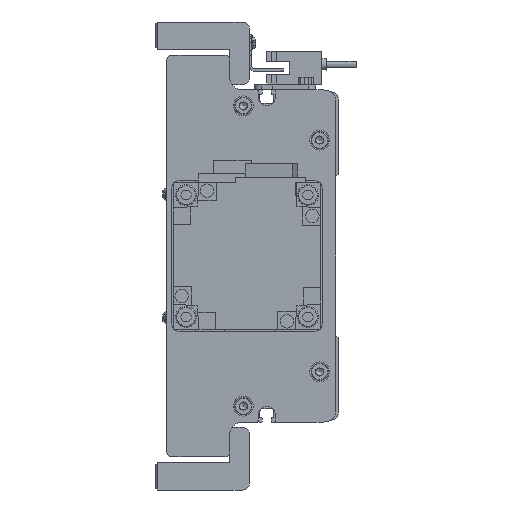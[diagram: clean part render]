
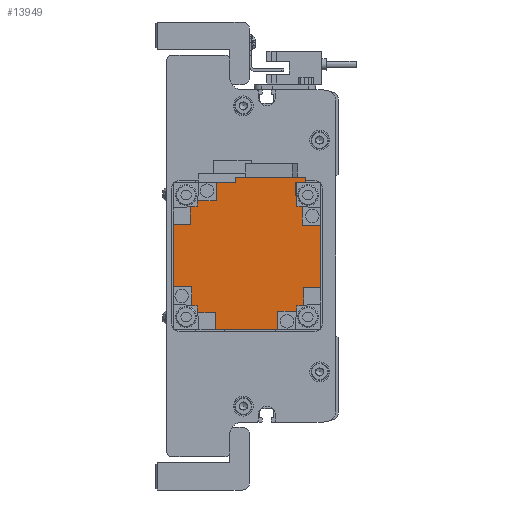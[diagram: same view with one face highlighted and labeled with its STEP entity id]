
A CAD part, left-side view. The second image highlights one B-rep face of the part: STEP entity #13949.
In plain terms, the highlighted planar face has unit normal (-1, 0, 0) as drawn and (0, 1, 0) by its records, which use the part's own axes.
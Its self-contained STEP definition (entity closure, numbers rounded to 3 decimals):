
#1388=ORIENTED_EDGE('',*,*,#5170,.T.);
#1389=ORIENTED_EDGE('',*,*,#5171,.T.);
#1390=ORIENTED_EDGE('',*,*,#5172,.T.);
#1391=ORIENTED_EDGE('',*,*,#5173,.T.);
#1392=ORIENTED_EDGE('',*,*,#5174,.T.);
#1393=ORIENTED_EDGE('',*,*,#5175,.F.);
#1394=ORIENTED_EDGE('',*,*,#5176,.F.);
#1395=ORIENTED_EDGE('',*,*,#5177,.T.);
#1396=ORIENTED_EDGE('',*,*,#5178,.T.);
#1397=ORIENTED_EDGE('',*,*,#5179,.T.);
#1398=ORIENTED_EDGE('',*,*,#5180,.T.);
#1399=ORIENTED_EDGE('',*,*,#5181,.T.);
#1400=ORIENTED_EDGE('',*,*,#5182,.F.);
#1401=ORIENTED_EDGE('',*,*,#5183,.F.);
#1402=ORIENTED_EDGE('',*,*,#5184,.T.);
#1403=ORIENTED_EDGE('',*,*,#5185,.T.);
#1404=ORIENTED_EDGE('',*,*,#5186,.T.);
#1405=ORIENTED_EDGE('',*,*,#5187,.T.);
#1406=ORIENTED_EDGE('',*,*,#5188,.T.);
#1407=ORIENTED_EDGE('',*,*,#5189,.F.);
#1408=ORIENTED_EDGE('',*,*,#5190,.F.);
#1409=ORIENTED_EDGE('',*,*,#5191,.T.);
#1410=ORIENTED_EDGE('',*,*,#5192,.F.);
#1411=ORIENTED_EDGE('',*,*,#5151,.F.);
#1412=ORIENTED_EDGE('',*,*,#5193,.T.);
#1413=ORIENTED_EDGE('',*,*,#5168,.T.);
#1414=ORIENTED_EDGE('',*,*,#5194,.T.);
#1415=ORIENTED_EDGE('',*,*,#5195,.T.);
#1416=ORIENTED_EDGE('',*,*,#5196,.F.);
#1417=ORIENTED_EDGE('',*,*,#5197,.F.);
#5151=EDGE_CURVE('',#7074,#7075,#8482,.T.);
#5168=EDGE_CURVE('',#7092,#7091,#8499,.T.);
#5170=EDGE_CURVE('',#7093,#7094,#8501,.T.);
#5171=EDGE_CURVE('',#7094,#7095,#8502,.T.);
#5172=EDGE_CURVE('',#7095,#7096,#8503,.T.);
#5173=EDGE_CURVE('',#7096,#7097,#8504,.T.);
#5174=EDGE_CURVE('',#7097,#7098,#8505,.T.);
#5175=EDGE_CURVE('',#7099,#7098,#8506,.T.);
#5176=EDGE_CURVE('',#7100,#7099,#8507,.T.);
#5177=EDGE_CURVE('',#7100,#7101,#8508,.T.);
#5178=EDGE_CURVE('',#7101,#7102,#8509,.T.);
#5179=EDGE_CURVE('',#7102,#7103,#8510,.T.);
#5180=EDGE_CURVE('',#7103,#7104,#8511,.T.);
#5181=EDGE_CURVE('',#7104,#7105,#8512,.T.);
#5182=EDGE_CURVE('',#7106,#7105,#8513,.T.);
#5183=EDGE_CURVE('',#7107,#7106,#8514,.T.);
#5184=EDGE_CURVE('',#7107,#7108,#8515,.T.);
#5185=EDGE_CURVE('',#7108,#7109,#8516,.T.);
#5186=EDGE_CURVE('',#7109,#7110,#8517,.T.);
#5187=EDGE_CURVE('',#7110,#7111,#8518,.T.);
#5188=EDGE_CURVE('',#7111,#7112,#8519,.T.);
#5189=EDGE_CURVE('',#7113,#7112,#8520,.T.);
#5190=EDGE_CURVE('',#7114,#7113,#8521,.T.);
#5191=EDGE_CURVE('',#7114,#7115,#8522,.T.);
#5192=EDGE_CURVE('',#7075,#7115,#8523,.T.);
#5193=EDGE_CURVE('',#7074,#7092,#8524,.T.);
#5194=EDGE_CURVE('',#7091,#7116,#8525,.T.);
#5195=EDGE_CURVE('',#7116,#7117,#8526,.T.);
#5196=EDGE_CURVE('',#7118,#7117,#8527,.T.);
#5197=EDGE_CURVE('',#7093,#7118,#8528,.T.);
#7074=VERTEX_POINT('',#20803);
#7075=VERTEX_POINT('',#20804);
#7091=VERTEX_POINT('',#20837);
#7092=VERTEX_POINT('',#20839);
#7093=VERTEX_POINT('',#20843);
#7094=VERTEX_POINT('',#20844);
#7095=VERTEX_POINT('',#20846);
#7096=VERTEX_POINT('',#20848);
#7097=VERTEX_POINT('',#20850);
#7098=VERTEX_POINT('',#20852);
#7099=VERTEX_POINT('',#20854);
#7100=VERTEX_POINT('',#20856);
#7101=VERTEX_POINT('',#20858);
#7102=VERTEX_POINT('',#20860);
#7103=VERTEX_POINT('',#20862);
#7104=VERTEX_POINT('',#20864);
#7105=VERTEX_POINT('',#20866);
#7106=VERTEX_POINT('',#20868);
#7107=VERTEX_POINT('',#20870);
#7108=VERTEX_POINT('',#20872);
#7109=VERTEX_POINT('',#20874);
#7110=VERTEX_POINT('',#20876);
#7111=VERTEX_POINT('',#20878);
#7112=VERTEX_POINT('',#20880);
#7113=VERTEX_POINT('',#20882);
#7114=VERTEX_POINT('',#20884);
#7115=VERTEX_POINT('',#20886);
#7116=VERTEX_POINT('',#20890);
#7117=VERTEX_POINT('',#20892);
#7118=VERTEX_POINT('',#20894);
#8482=LINE('',#20802,#9859);
#8499=LINE('',#20838,#9876);
#8501=LINE('',#20842,#9878);
#8502=LINE('',#20845,#9879);
#8503=LINE('',#20847,#9880);
#8504=LINE('',#20849,#9881);
#8505=LINE('',#20851,#9882);
#8506=LINE('',#20853,#9883);
#8507=LINE('',#20855,#9884);
#8508=LINE('',#20857,#9885);
#8509=LINE('',#20859,#9886);
#8510=LINE('',#20861,#9887);
#8511=LINE('',#20863,#9888);
#8512=LINE('',#20865,#9889);
#8513=LINE('',#20867,#9890);
#8514=LINE('',#20869,#9891);
#8515=LINE('',#20871,#9892);
#8516=LINE('',#20873,#9893);
#8517=LINE('',#20875,#9894);
#8518=LINE('',#20877,#9895);
#8519=LINE('',#20879,#9896);
#8520=LINE('',#20881,#9897);
#8521=LINE('',#20883,#9898);
#8522=LINE('',#20885,#9899);
#8523=LINE('',#20887,#9900);
#8524=LINE('',#20888,#9901);
#8525=LINE('',#20889,#9902);
#8526=LINE('',#20891,#9903);
#8527=LINE('',#20893,#9904);
#8528=LINE('',#20895,#9905);
#9859=VECTOR('',#16574,1000.);
#9876=VECTOR('',#16593,1000.);
#9878=VECTOR('',#16597,1000.);
#9879=VECTOR('',#16598,1000.);
#9880=VECTOR('',#16599,1000.);
#9881=VECTOR('',#16600,1000.);
#9882=VECTOR('',#16601,1000.);
#9883=VECTOR('',#16602,1000.);
#9884=VECTOR('',#16603,1000.);
#9885=VECTOR('',#16604,1000.);
#9886=VECTOR('',#16605,1000.);
#9887=VECTOR('',#16606,1000.);
#9888=VECTOR('',#16607,1000.);
#9889=VECTOR('',#16608,1000.);
#9890=VECTOR('',#16609,1000.);
#9891=VECTOR('',#16610,1000.);
#9892=VECTOR('',#16611,1000.);
#9893=VECTOR('',#16612,1000.);
#9894=VECTOR('',#16613,1000.);
#9895=VECTOR('',#16614,1000.);
#9896=VECTOR('',#16615,1000.);
#9897=VECTOR('',#16616,1000.);
#9898=VECTOR('',#16617,1000.);
#9899=VECTOR('',#16618,1000.);
#9900=VECTOR('',#16619,1000.);
#9901=VECTOR('',#16620,1000.);
#9902=VECTOR('',#16621,1000.);
#9903=VECTOR('',#16622,1000.);
#9904=VECTOR('',#16623,1000.);
#9905=VECTOR('',#16624,1000.);
#11180=EDGE_LOOP('',(#1388,#1389,#1390,#1391,#1392,#1393,#1394,#1395,#1396,
#1397,#1398,#1399,#1400,#1401,#1402,#1403,#1404,#1405,#1406,#1407,#1408,
#1409,#1410,#1411,#1412,#1413,#1414,#1415,#1416,#1417));
#12291=FACE_BOUND('',#11180,.T.);
#13393=PLANE('',#14899);
#13949=ADVANCED_FACE('',(#12291),#13393,.T.);
#14899=AXIS2_PLACEMENT_3D('',#20841,#16595,#16596);
#16574=DIRECTION('',(0.,0.,1.));
#16593=DIRECTION('',(0.,0.,-1.));
#16595=DIRECTION('',(0.,1.,0.));
#16596=DIRECTION('',(0.,0.,1.));
#16597=DIRECTION('',(-1.,0.,0.));
#16598=DIRECTION('',(0.,0.,-1.));
#16599=DIRECTION('',(-1.,0.,0.));
#16600=DIRECTION('',(0.,0.,1.));
#16601=DIRECTION('',(-1.,0.,0.));
#16602=DIRECTION('',(0.07,0.,-0.998));
#16603=DIRECTION('',(0.998,0.,-0.07));
#16604=DIRECTION('',(0.,0.,1.));
#16605=DIRECTION('',(-1.,0.,0.));
#16606=DIRECTION('',(0.,0.,1.));
#16607=DIRECTION('',(1.,0.,0.));
#16608=DIRECTION('',(0.,0.,1.));
#16609=DIRECTION('',(-0.998,0.,-0.07));
#16610=DIRECTION('',(-0.07,0.,-0.998));
#16611=DIRECTION('',(1.,0.,0.));
#16612=DIRECTION('',(0.,0.,1.));
#16613=DIRECTION('',(1.,0.,0.));
#16614=DIRECTION('',(0.,0.,-1.));
#16615=DIRECTION('',(1.,0.,0.));
#16616=DIRECTION('',(-0.07,0.,0.998));
#16617=DIRECTION('',(-0.998,0.,0.07));
#16618=DIRECTION('',(0.,0.,1.));
#16619=DIRECTION('',(-1.,0.,0.));
#16620=DIRECTION('',(-1.,0.,0.));
#16621=DIRECTION('',(-1.,0.,0.));
#16622=DIRECTION('',(0.,0.,-1.));
#16623=DIRECTION('',(0.998,0.,0.07));
#16624=DIRECTION('',(0.07,0.,0.998));
#20802=CARTESIAN_POINT('',(32.,130.7,-4.7));
#20803=CARTESIAN_POINT('',(32.,130.7,-4.7));
#20804=CARTESIAN_POINT('',(32.,130.7,23.7));
#20837=CARTESIAN_POINT('',(29.95,130.7,-12.5));
#20838=CARTESIAN_POINT('',(29.95,130.7,29.95));
#20839=CARTESIAN_POINT('',(29.95,130.7,-4.7));
#20841=CARTESIAN_POINT('',(0.,130.7,0.));
#20842=CARTESIAN_POINT('',(0.,130.7,-23.));
#20843=CARTESIAN_POINT('',(20.004,130.7,-23.));
#20844=CARTESIAN_POINT('',(12.8,130.7,-23.));
#20845=CARTESIAN_POINT('',(12.8,130.7,0.));
#20846=CARTESIAN_POINT('',(12.8,130.7,-29.95));
#20847=CARTESIAN_POINT('',(29.95,130.7,-29.95));
#20848=CARTESIAN_POINT('',(-12.5,130.7,-29.95));
#20849=CARTESIAN_POINT('',(-12.5,130.7,0.));
#20850=CARTESIAN_POINT('',(-12.5,130.7,-22.5));
#20851=CARTESIAN_POINT('',(0.,130.7,-22.5));
#20852=CARTESIAN_POINT('',(-20.039,130.7,-22.5));
#20853=CARTESIAN_POINT('',(-21.507,130.7,-1.504));
#20854=CARTESIAN_POINT('',(-20.2,130.7,-20.2));
#20855=CARTESIAN_POINT('',(-1.504,130.7,-21.507));
#20856=CARTESIAN_POINT('',(-23.,130.7,-20.004));
#20857=CARTESIAN_POINT('',(-23.,130.7,0.));
#20858=CARTESIAN_POINT('',(-23.,130.7,-12.8));
#20859=CARTESIAN_POINT('',(0.,130.7,-12.8));
#20860=CARTESIAN_POINT('',(-29.95,130.7,-12.8));
#20861=CARTESIAN_POINT('',(-29.95,130.7,-29.95));
#20862=CARTESIAN_POINT('',(-29.95,130.7,12.5));
#20863=CARTESIAN_POINT('',(0.,130.7,12.5));
#20864=CARTESIAN_POINT('',(-22.5,130.7,12.5));
#20865=CARTESIAN_POINT('',(-22.5,130.7,0.));
#20866=CARTESIAN_POINT('',(-22.5,130.7,20.039));
#20867=CARTESIAN_POINT('',(-1.504,130.7,21.507));
#20868=CARTESIAN_POINT('',(-20.2,130.7,20.2));
#20869=CARTESIAN_POINT('',(-21.507,130.7,1.504));
#20870=CARTESIAN_POINT('',(-20.004,130.7,23.));
#20871=CARTESIAN_POINT('',(0.,130.7,23.));
#20872=CARTESIAN_POINT('',(-12.8,130.7,23.));
#20873=CARTESIAN_POINT('',(-12.8,130.7,0.));
#20874=CARTESIAN_POINT('',(-12.8,130.7,29.95));
#20875=CARTESIAN_POINT('',(-29.95,130.7,29.95));
#20876=CARTESIAN_POINT('',(12.5,130.7,29.95));
#20877=CARTESIAN_POINT('',(12.5,130.7,0.));
#20878=CARTESIAN_POINT('',(12.5,130.7,22.5));
#20879=CARTESIAN_POINT('',(0.,130.7,22.5));
#20880=CARTESIAN_POINT('',(20.039,130.7,22.5));
#20881=CARTESIAN_POINT('',(21.507,130.7,1.504));
#20882=CARTESIAN_POINT('',(20.2,130.7,20.2));
#20883=CARTESIAN_POINT('',(1.504,130.7,21.507));
#20884=CARTESIAN_POINT('',(29.95,130.7,19.518));
#20885=CARTESIAN_POINT('',(29.95,130.7,-4.7));
#20886=CARTESIAN_POINT('',(29.95,130.7,23.7));
#20887=CARTESIAN_POINT('',(32.,130.7,23.7));
#20888=CARTESIAN_POINT('',(32.,130.7,-4.7));
#20889=CARTESIAN_POINT('',(0.,130.7,-12.5));
#20890=CARTESIAN_POINT('',(22.5,130.7,-12.5));
#20891=CARTESIAN_POINT('',(22.5,130.7,0.));
#20892=CARTESIAN_POINT('',(22.5,130.7,-20.039));
#20893=CARTESIAN_POINT('',(1.504,130.7,-21.507));
#20894=CARTESIAN_POINT('',(20.2,130.7,-20.2));
#20895=CARTESIAN_POINT('',(21.507,130.7,-1.504));
